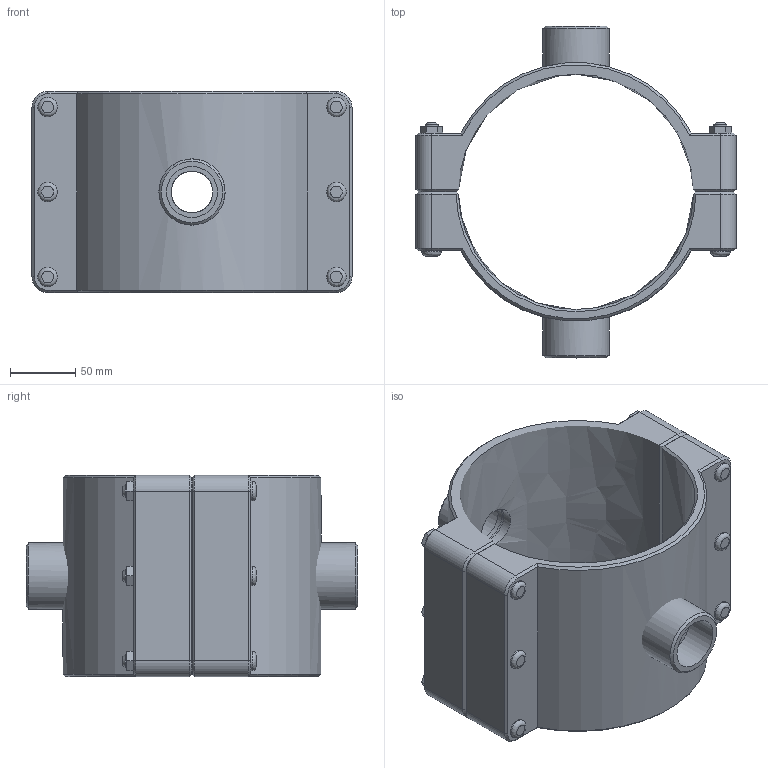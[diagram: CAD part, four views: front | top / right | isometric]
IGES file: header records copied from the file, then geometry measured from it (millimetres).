
Global section: file name: 161760180013_161860180013.ipt; native system: Autodesk Inventor 2015; preprocessor: unknown; author: KIM; date: 20170618.093827; units: millimetre
Bounding box: 245 x 254 x 154 mm (x, y, z)
Volume: 1604627.6 mm3; surface area: 257572.3 mm2
Topology: 3 solids, 3 shells, 179 faces, 416 edges, 265 vertices
Faces by surface type: plane 102, cylinder 30, cone 28, revolution 19
Full cylindrical faces by diameter (mm): 10 x6, 15 x12, 50.638 x2
